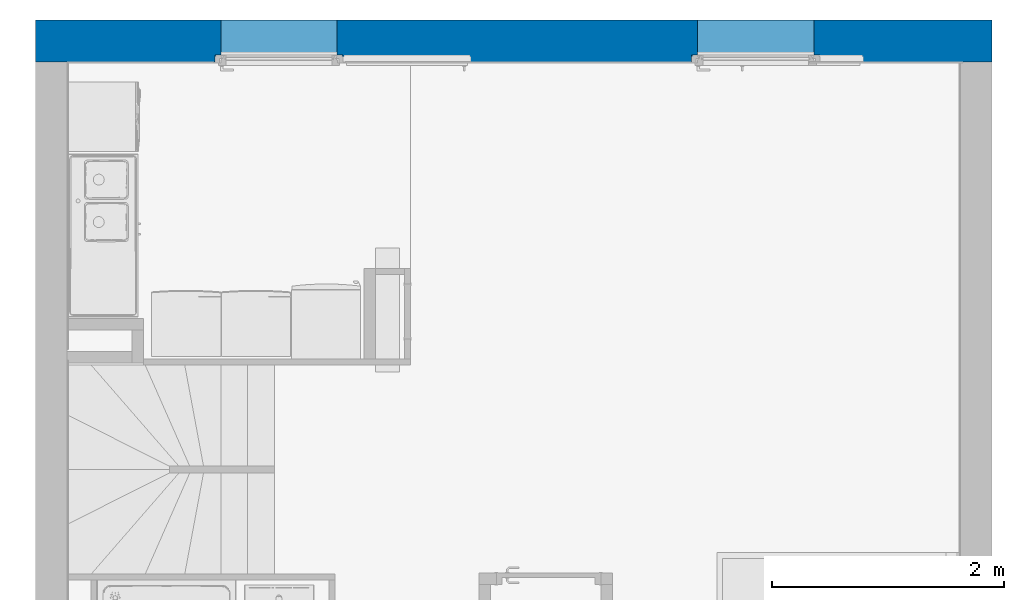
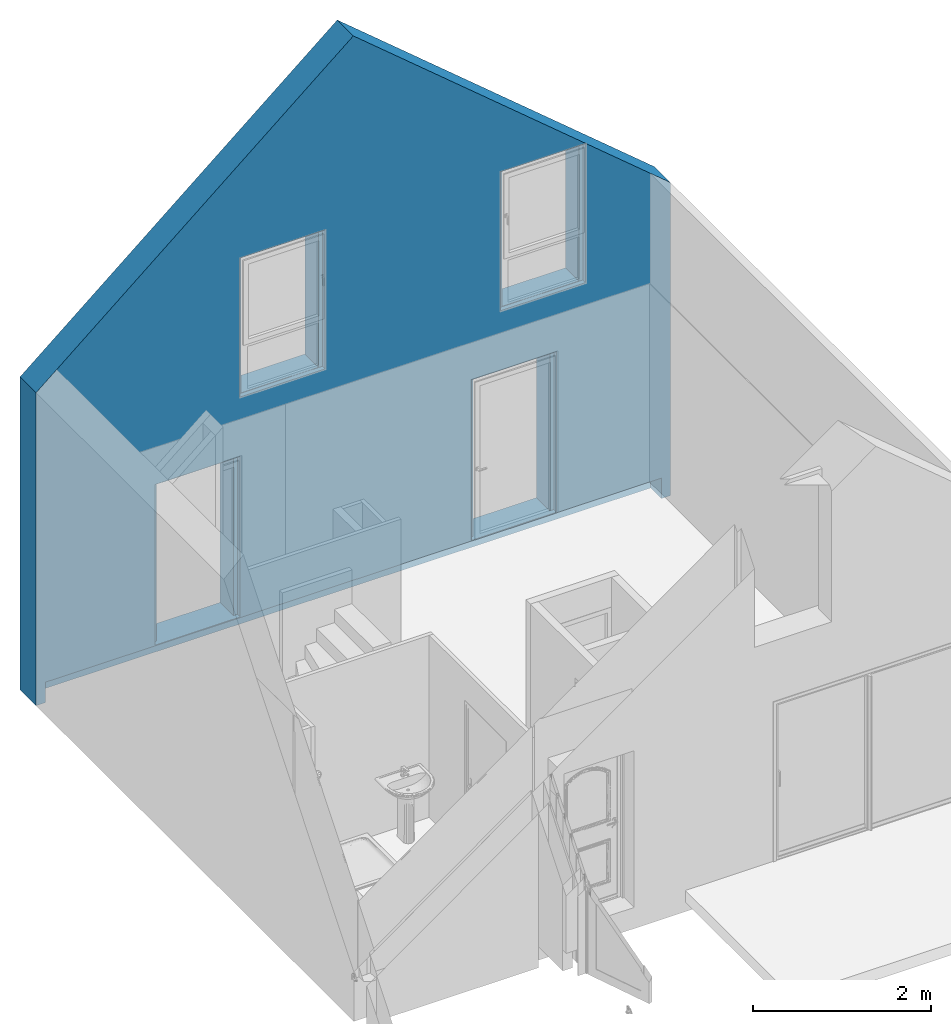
# One storey, part 69 of 81: 1 wall, 6 openings.
"""IFC2X3 building model written with IfcOpenShell, lengths in metres."""

import ifcopenshell
import ifcopenshell.guid

model = None  # the IFC model being written
_history = None  # IfcOwnerHistory: only IFC2X3 demands one
_inside = {}  # id of a spatial element -> (the spatial element, [elements in it])
_under = {}  # id of a project, library or spatial element -> (it, [spatial elements below it])
_declared = {}  # id of a project -> (the project, [libraries it declares])
_typed = {}  # id of a type object -> (the type object, [elements of that type])
_made_of = {}  # id of a material, layer set ... -> (it, [elements and type objects made of it])


def new_model(schema):
    """Start an empty IFC model of exactly this schema.

    Asked for "IFC4X3", IfcOpenShell would pick the latest addendum, in which some entities
    have other attributes; the version numbers below select the first issue.
    IFC2X3 requires an IfcOwnerHistory on every rooted entity: one is made here for all.
    """
    global model, _history
    if schema == "IFC4X3":
        model = ifcopenshell.file(schema_version=(4, 3, 0, 0))
    else:
        model = ifcopenshell.file(schema=schema)
    _inside.clear()
    _under.clear()
    _declared.clear()
    _typed.clear()
    _made_of.clear()
    _history = None
    if model.schema == "IFC2X3":
        org = make("IfcOrganization", Name="unknown")
        user = make(
            "IfcPersonAndOrganization",
            ThePerson=make("IfcPerson", FamilyName="unknown"),
            TheOrganization=org,
        )
        app = make(
            "IfcApplication",
            ApplicationDeveloper=org,
            Version="unknown",
            ApplicationFullName="unknown",
            ApplicationIdentifier="unknown",
        )
        _history = make(
            "IfcOwnerHistory",
            OwningUser=user,
            OwningApplication=app,
            ChangeAction="ADDED",
            CreationDate=0,
        )
    return model


def make(cls, **values):
    """One entity of the class cls with the attributes given. An attribute that is None is left unset."""
    return model.create_entity(
        cls, **{name: value for name, value in values.items() if value is not None}
    )


def entity(cls, *values):
    """Any entity or typed value of the class cls, its attributes in the order of the schema. None: left unset."""
    e = model.create_entity(cls)
    for i, value in enumerate(values):
        if value is not None:
            e[i] = value
    return e


def rooted(cls, **values):
    """An entity with a GlobalId (a new one), such as an element, a storey or a relation."""
    return make(cls, GlobalId=ifcopenshell.guid.new(), OwnerHistory=_history, **values)


def si_unit(unit_type, name, prefix=None):
    """IfcSIUnit, for example si_unit("LENGTHUNIT", "METRE", prefix="MILLI")."""
    return make("IfcSIUnit", UnitType=unit_type, Prefix=prefix, Name=name)


def converted_unit(unit_type, name, factor, base, dimensions=None, offset=None):
    """IfcConversionBasedUnit, such as the inch: factor (a typed value) times the base unit."""
    return make(
        "IfcConversionBasedUnit"
        if offset is None
        else "IfcConversionBasedUnitWithOffset",
        ConversionOffset=offset,
        Dimensions=None
        if dimensions is None
        else entity("IfcDimensionalExponents", *dimensions),
        UnitType=unit_type,
        Name=name,
        ConversionFactor=make(
            "IfcMeasureWithUnit", ValueComponent=factor, UnitComponent=base
        ),
    )


def derived_unit(unit_type, elements):
    """IfcDerivedUnit: a product of units, each with its exponent."""
    return make(
        "IfcDerivedUnit",
        Elements=[
            make("IfcDerivedUnitElement", Unit=unit, Exponent=power)
            for unit, power in elements
        ],
        UnitType=unit_type,
    )


def assignment(units):
    """IfcUnitAssignment: the units of a project."""
    return None if units is None else make("IfcUnitAssignment", Units=units)


def point(xyz):
    """IfcCartesianPoint."""
    return None if xyz is None else make("IfcCartesianPoint", Coordinates=xyz)


def direction(xyz):
    """IfcDirection."""
    return None if xyz is None else make("IfcDirection", DirectionRatios=xyz)


def frame(location, z_axis=None, x_axis=None):
    """IfcAxis2Placement3D, a coordinate frame: its origin and axes. An axis left out is left unset."""
    return make(
        "IfcAxis2Placement3D",
        Location=point(location),
        Axis=direction(z_axis),
        RefDirection=direction(x_axis),
    )


def frame_2d(location, x_axis=None):
    """IfcAxis2Placement2D, a coordinate frame in the plane: its origin and x axis."""
    return make(
        "IfcAxis2Placement2D", Location=point(location), RefDirection=direction(x_axis)
    )


def origin():
    """The frame at (0, 0, 0) with its axes left unset."""
    return frame((0.0, 0.0, 0.0))


def origin_2d_with_axis():
    """The frame at (0, 0) in the plane with the x axis (1, 0) written out."""
    return frame_2d((0.0, 0.0), x_axis=(1.0, 0.0))


def place(relative_to, where):
    """IfcLocalPlacement: puts the frame where relative to a parent placement (None: the world)."""
    return make(
        "IfcLocalPlacement", PlacementRelTo=relative_to, RelativePlacement=where
    )


def context(
    kind, dimensions, precision=None, world=None, true_north=None, identifier=None
):
    """IfcGeometricRepresentationContext, for example the 3D "Model" context."""
    return make(
        "IfcGeometricRepresentationContext",
        ContextIdentifier=identifier,
        ContextType=kind,
        CoordinateSpaceDimension=dimensions,
        Precision=precision,
        WorldCoordinateSystem=world,
        TrueNorth=true_north,
    )


def subcontext(parent, identifier, kind, view, scale=None):
    """IfcGeometricRepresentationSubContext, for example "Body" below "Model"."""
    return make(
        "IfcGeometricRepresentationSubContext",
        ContextIdentifier=identifier,
        ContextType=kind,
        ParentContext=parent,
        TargetScale=scale,
        TargetView=view,
    )


def project(units=None, contexts=None):
    """IfcProject with its units and contexts."""
    return rooted(
        "IfcProject",
        Name="project",
        RepresentationContexts=contexts,
        UnitsInContext=assignment(units),
    )


def spatial(cls, under=None, at=None, **own):
    """A site, building, storey or space (cls), placed at a placement, below another one or the project."""
    s = rooted(cls, ObjectPlacement=at, **own)
    if under is not None:
        _under.setdefault(under.id(), (under, []))[1].append(s)
    return s


def polyline(points):
    """IfcPolyline through the points."""
    return make("IfcPolyline", Points=[point(p) for p in points])


def profile(cls, at=None, kind="AREA", **sizes):
    """A parametric profile (cls). Its sizes go by their IFC names, for example OverallWidth=200.0."""
    return make(cls, ProfileType=kind, Position=at, **sizes)


def rectangle(**sizes):
    """IfcRectangleProfileDef."""
    return profile("IfcRectangleProfileDef", **sizes)


def extrude(swept, where, along, depth):
    """IfcExtrudedAreaSolid: the profile swept, set in the frame where, extruded along a direction by depth."""
    return make(
        "IfcExtrudedAreaSolid",
        SweptArea=swept,
        Position=where,
        ExtrudedDirection=direction(along),
        Depth=depth,
    )


def clip(a, b, op="DIFFERENCE"):
    """IfcBooleanClippingResult: the solid a cut by the half space b."""
    return make(
        "IfcBooleanClippingResult", Operator=op, FirstOperand=a, SecondOperand=b
    )


def bounded_halfspace(plane, agree, where, boundary):
    """IfcPolygonalBoundedHalfSpace: a half space limited to a polygon's prism."""
    return make(
        "IfcPolygonalBoundedHalfSpace",
        BaseSurface=make("IfcPlane", Position=plane),
        AgreementFlag=agree,
        Position=where,
        PolygonalBoundary=boundary,
    )


def faces_of(points, faces, orient=None, outer=None):
    """IfcFace entities. A face is a list of loops; a loop is a list of indices into points, from 0.

    orient and outer hold one flag for each loop. By default every Orientation is true, the
    first loop of a face is its IfcFaceOuterBound and the others are IfcFaceBound.
    """
    made = []
    for i, loops in enumerate(faces):
        bounds = []
        for j, loop in enumerate(loops):
            is_outer = j == 0 if outer is None else outer[i][j]
            bounds.append(
                make(
                    "IfcFaceOuterBound" if is_outer else "IfcFaceBound",
                    Bound=make("IfcPolyLoop", Polygon=[points[k] for k in loop]),
                    Orientation=True if orient is None else orient[i][j],
                )
            )
        made.append(make("IfcFace", Bounds=bounds))
    return made


def faceted_brep(points, faces, orient=None, outer=None, voids=None):
    """IfcFacetedBrep: a solid bounded by flat faces; with voids (closed shells), ...WithVoids."""
    shared = [point(p) for p in points]
    hull = make("IfcClosedShell", CfsFaces=faces_of(shared, faces, orient, outer))
    if voids is None:
        return make("IfcFacetedBrep", Outer=hull)
    return make(
        "IfcFacetedBrepWithVoids",
        Outer=hull,
        Voids=[
            make(cls, CfsFaces=faces_of(shared, fs, o, b)) for cls, fs, o, b in voids
        ],
    )


def shape(context_of_items, identifier, shape_type, items):
    """IfcShapeRepresentation: the items that make up one representation, for example the "Body"."""
    return make(
        "IfcShapeRepresentation",
        ContextOfItems=context_of_items,
        RepresentationIdentifier=identifier,
        RepresentationType=shape_type,
        Items=items,
    )


def material(Name=None, Category=None):
    """IfcMaterial."""
    return make("IfcMaterial", Name=Name, Category=Category)


def layer(
    of_material, thickness, ventilated=None, Name=None, Category=None, Priority=None
):
    """IfcMaterialLayer: one layer of a wall or slab, of a material (None: an air gap)."""
    return make(
        "IfcMaterialLayer",
        Material=of_material,
        LayerThickness=thickness,
        IsVentilated=ventilated,
        Name=Name,
        Category=Category,
        Priority=Priority,
    )


def layer_set(layers, Name=None):
    """IfcMaterialLayerSet."""
    return make("IfcMaterialLayerSet", MaterialLayers=layers, LayerSetName=Name)


def layer_usage(for_layer_set, set_direction, sense, offset, extent=None):
    """IfcMaterialLayerSetUsage: how a layer set lies in its element."""
    return make(
        "IfcMaterialLayerSetUsage",
        ForLayerSet=for_layer_set,
        LayerSetDirection=set_direction,
        DirectionSense=sense,
        OffsetFromReferenceLine=offset,
        ReferenceExtent=extent,
    )


def made_of(thing, what):
    """Note that an element or type object is made of a material, layer set ...; save() writes the relation."""
    if what is not None:
        _made_of.setdefault(what.id(), (what, []))[1].append(thing)
    return thing


def type_object(cls, material=None, **own):
    """A type object (cls), such as IfcWallType, which elements share."""
    return made_of(rooted(cls, **own), material)


def element(
    cls,
    number,
    at=None,
    inside=None,
    cuts=None,
    type_object=None,
    material=None,
    context=None,
    identifier="Body",
    shape_type=None,
    held_by="IfcProductDefinitionShape",
    body=None,
    shapes=None,
    **own,
):
    """One element of the class cls, such as IfcWall. Its Tag is "e" and its number.

    at: its placement. inside: the storey or other place that contains it. cuts: it is an
    opening in that element (IfcRelVoidsElement). A single representation is given by context,
    identifier, shape_type and body (its items); several are given by shapes. held_by: the class
    of the entity that holds the representations. save() writes the other relations.
    """
    e = rooted(cls, Tag="e%d" % number, ObjectPlacement=at, **own)
    if body is not None:
        shapes = [shape(context, identifier, shape_type, body)]
    if shapes is not None:
        e.Representation = make(held_by, Representations=shapes)
    if inside is not None:
        _inside.setdefault(inside.id(), (inside, []))[1].append(e)
    if cuts is not None:
        rooted(
            "IfcRelVoidsElement", RelatingBuildingElement=cuts, RelatedOpeningElement=e
        )
    if type_object is not None:
        _typed.setdefault(type_object.id(), (type_object, []))[1].append(e)
    return made_of(e, material)


def aggregate(whole, parts):
    """IfcRelAggregates: a whole, such as a stair, and the parts it consists of."""
    return rooted("IfcRelAggregates", RelatingObject=whole, RelatedObjects=parts)


def save(model, path):
    """Write the relations noted so far, then the file.

    IfcRelAggregates (storeys below a building ...), IfcRelContainedInSpatialStructure (elements
    in a storey), IfcRelDefinesByType, IfcRelAssociatesMaterial and IfcRelDeclares: one each for
    every whole, place, type object, material and project.
    """
    for whole, parts in _under.values():
        aggregate(whole, parts)
    for where, things in _inside.values():
        rooted(
            "IfcRelContainedInSpatialStructure",
            RelatedElements=things,
            RelatingStructure=where,
        )
    for kind, things in _typed.values():
        rooted("IfcRelDefinesByType", RelatedObjects=things, RelatingType=kind)
    for what, things in _made_of.values():
        rooted("IfcRelAssociatesMaterial", RelatedObjects=things, RelatingMaterial=what)
    for by, libraries in _declared.values():
        rooted("IfcRelDeclares", RelatingContext=by, RelatedDefinitions=libraries)
    model.write(path)


model = new_model("IFC2X3")

# Units and contexts
model_context = context("Model", 3, precision=1e-05, world=origin(), true_north=direction((6.12303176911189e-17, 1.0)))
body_context = subcontext(model_context, "Body", "Model", "MODEL_VIEW")
ifc_project = project(units=[si_unit("LENGTHUNIT", "METRE"), si_unit("AREAUNIT", "SQUARE_METRE"), si_unit("VOLUMEUNIT", "CUBIC_METRE"), converted_unit("PLANEANGLEUNIT", "DEGREE", entity("IfcRatioMeasure", 0.0174532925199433), si_unit("PLANEANGLEUNIT", "RADIAN"), dimensions=[0, 0, 0, 0, 0, 0, 0]), si_unit("MASSUNIT", "GRAM", prefix="KILO"), derived_unit("MASSDENSITYUNIT", [(si_unit("MASSUNIT", "GRAM", prefix="KILO"), 1), (si_unit("LENGTHUNIT", "METRE"), -3)]), derived_unit("MOMENTOFINERTIAUNIT", [(si_unit("LENGTHUNIT", "METRE"), 4)]), si_unit("TIMEUNIT", "SECOND"), si_unit("FREQUENCYUNIT", "HERTZ"), si_unit("THERMODYNAMICTEMPERATUREUNIT", "DEGREE_CELSIUS"), derived_unit("THERMALTRANSMITTANCEUNIT", [(si_unit("MASSUNIT", "GRAM", prefix="KILO"), 1), (si_unit("THERMODYNAMICTEMPERATUREUNIT", "KELVIN"), -1), (si_unit("TIMEUNIT", "SECOND"), -3)]), derived_unit("VOLUMETRICFLOWRATEUNIT", [(si_unit("LENGTHUNIT", "METRE"), 3), (si_unit("TIMEUNIT", "SECOND"), -1)]), si_unit("ELECTRICCURRENTUNIT", "AMPERE"), si_unit("ELECTRICVOLTAGEUNIT", "VOLT"), si_unit("POWERUNIT", "WATT"), si_unit("FORCEUNIT", "NEWTON", prefix="KILO"), si_unit("ILLUMINANCEUNIT", "LUX"), si_unit("LUMINOUSFLUXUNIT", "LUMEN"), si_unit("LUMINOUSINTENSITYUNIT", "CANDELA"), derived_unit("USERDEFINED", [(si_unit("MASSUNIT", "GRAM", prefix="KILO"), -1), (si_unit("LENGTHUNIT", "METRE"), -2), (si_unit("TIMEUNIT", "SECOND"), 3), (si_unit("LUMINOUSFLUXUNIT", "LUMEN"), 1)]), derived_unit("LINEARVELOCITYUNIT", [(si_unit("LENGTHUNIT", "METRE"), 1), (si_unit("TIMEUNIT", "SECOND"), -1)]), si_unit("PRESSUREUNIT", "PASCAL"), derived_unit("USERDEFINED", [(si_unit("LENGTHUNIT", "METRE"), -2), (si_unit("MASSUNIT", "GRAM", prefix="KILO"), 1), (si_unit("TIMEUNIT", "SECOND"), -2)]), derived_unit("LINEARFORCEUNIT", [(si_unit("MASSUNIT", "GRAM", prefix="KILO"), 1), (si_unit("LENGTHUNIT", "METRE"), 1), (si_unit("TIMEUNIT", "SECOND"), -2), (si_unit("LENGTHUNIT", "METRE"), -1)]), derived_unit("PLANARFORCEUNIT", [(si_unit("MASSUNIT", "GRAM", prefix="KILO"), 1), (si_unit("LENGTHUNIT", "METRE"), 1), (si_unit("TIMEUNIT", "SECOND"), -2), (si_unit("LENGTHUNIT", "METRE"), -2)])], contexts=[model_context])

# Site, building, storey
site_placement = place(None, origin())
site = spatial("IfcSite", under=ifc_project, at=site_placement, Name="Surface", CompositionType="ELEMENT")
building_placement = place(site_placement, origin())
building = spatial("IfcBuilding", under=site, at=building_placement, CompositionType="ELEMENT")
storey_placement = place(building_placement, origin())
storey = spatial("IfcBuildingStorey", under=building, at=storey_placement, Name="01 RDC", CompositionType="ELEMENT", Elevation=-1.94916083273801e-14)

# Wall, openings
ifc_material_1 = material(Name="Maçonnerie - Enduit")
ifc_layer_1 = layer(ifc_material_1, 0.02)
ifc_material_2 = material(Name="Blocs béton manufacturés")
ifc_layer_2 = layer(ifc_material_2, 0.2)
ifc_material_3 = material(Name="Maçonnerie - Isolant")
ifc_layer_3 = layer(ifc_material_3, 0.14)
ifc_layer_set = layer_set([ifc_layer_1, ifc_layer_2, ifc_layer_3], Name="Mur de base:Ext. Enduit 2 + Parpaing 20 + Isolant 14")
ifc_layer_usage = layer_usage(ifc_layer_set, "AXIS2", "NEGATIVE", 0.18)
wall_type = type_object("IfcWallType", Name="Mur de base:Ext. Enduit 2 + Parpaing 20 + Isolant 14", PredefinedType="STANDARD", material=ifc_layer_set)
wall_placement = place(storey_placement, frame((5.4665615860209, 3.62303904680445, -0.29)))
wall = element("IfcWallStandardCase", 1, at=wall_placement, inside=storey, type_object=wall_type, material=ifc_layer_usage, Name="Mur de base:Ext. Enduit 2 + Parpaing 20 + Isolant 14", ObjectType="Mur de base:Ext. Enduit 2 + Parpaing 20 + Isolant 14", context=body_context, shape_type="Clipping", body=[
    clip(clip(extrude(rectangle(XDim=8.23, YDim=0.36, at=frame_2d((4.115, 1.11022302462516e-16), x_axis=(-1.0, 0.0))), origin(), (0.0, 0.0, 1.0), 7.74289498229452), bounded_halfspace(frame((0.0, 0.18, 4.29000000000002), z_axis=(-0.642787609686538, 0.0, 0.766044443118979), x_axis=(0.0, -1.0, 0.0)), False, frame((0.0, 0.18, 4.29000000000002)), polyline([(0.0, 0.0), (0.0, -0.36), (0.270000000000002, -0.359999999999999), (4.115, -0.36), (4.115, 0.0), (0.0, 0.0)]))), bounded_halfspace(frame((8.23, -0.179999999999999, 4.29000000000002), z_axis=(0.642787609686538, 0.0, 0.766044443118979), x_axis=(0.0, 1.0, 0.0)), False, frame((8.23, -0.179999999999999, 4.29000000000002)), polyline([(0.0, 0.0), (0.0, 0.36), (-4.115, 0.359999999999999), (-4.115, 0.0), (-0.27, 0.0), (0.0, 0.0)]))),
])
opening_1_placement = place(storey_placement, frame((5.4665615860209, 3.62303904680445, -0.29)))
element("IfcOpeningElement", 2, at=opening_1_placement, cuts=wall, Name="Mur de base:Ext. Enduit 2 + Parpaing 20 + Isolant 14:1", ObjectType="Opening", context=body_context, shape_type="SweptSolid", body=[
    extrude(rectangle(XDim=0.28, YDim=0.240000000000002, at=frame_2d((4.16333634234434e-17, 0.0), x_axis=(1.0, 0.0))), frame((0.120000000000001, -0.0599999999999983, 0.14), z_axis=(1.0, 0.0, 0.0), x_axis=(0.0, 0.0, 1.0)), (0.0, 0.0, 1.0), 7.99000000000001),
])
opening_2_placement = place(wall_placement, origin())
element("IfcOpeningElement", 3, at=opening_2_placement, cuts=wall, Name="Mur de base:Ext. Enduit 2 + Parpaing 20 + Isolant 14", ObjectType="Opening", context=body_context, shape_type="SweptSolid", body=[
    extrude(rectangle(XDim=0.081221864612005, YDim=0.0893985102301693, at=origin_2d_with_axis()), frame((2.48446993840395, -0.18, 0.335910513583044), z_axis=(0.0, 1.0, 0.0), x_axis=(0.0, 0.0, -1.0)), (0.0, 0.0, 1.0), 0.36),
])
opening_3_placement = place(wall_placement, frame((1.53200000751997, -0.430000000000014, 0.29)))
element("IfcOpeningElement", 4, at=opening_3_placement, cuts=wall, Name="Mur de base:Ext. Enduit 2 + Parpaing 20 + Isolant 14", ObjectType="Opening", context=body_context, shape_type="Brep", body=[
    faceted_brep([(0.0634999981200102, 1.21000000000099, 2.14999999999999), (0.063499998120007, 0.310000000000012, 2.14999999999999), (1.06349999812, 0.310000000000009, 2.14999999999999), (1.06349999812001, 1.21000000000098, 2.14999999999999), (0.0634999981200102, 1.21000000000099, 0.0), (1.06349999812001, 1.21000000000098, 0.0), (1.06349999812, 0.310000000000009, 0.0), (1.11499999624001, 0.310000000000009, 0.0), (1.11499999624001, 0.240000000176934, 0.0), (0.0119999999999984, 0.240000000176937, 0.0), (0.0119999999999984, 0.310000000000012, 0.0), (0.063499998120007, 0.310000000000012, 0.0), (0.0119999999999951, 0.310000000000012, 2.20149999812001), (1.11499999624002, 0.310000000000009, 2.20149999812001), (0.0119999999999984, 0.240000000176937, 2.14999999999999), (0.0119999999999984, 0.250000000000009, 2.14999999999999), (0.0119999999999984, 0.250000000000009, 2.20149999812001), (1.11499999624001, 0.240000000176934, 2.14999999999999), (1.11499999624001, 0.250000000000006, 2.20149999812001), (1.11499999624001, 0.250000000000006, 2.14999999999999)], [[[0, 1, 2, 3]], [[4, 5, 6, 7, 8, 9, 10, 11]], [[0, 4, 11, 1]], [[10, 12, 13, 7, 6, 2, 1, 11]], [[9, 14, 15, 16, 12, 10]], [[14, 9, 8, 17]], [[13, 18, 19, 17, 8, 7]], [[2, 6, 5, 3]], [[3, 5, 4, 0]], [[16, 18, 13, 12]], [[15, 19, 18, 16]], [[17, 19, 15, 14]]]),
    faceted_brep([(0.0, 0.00100000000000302, 2.20249999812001), (0.0, 0.00100000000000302, 2.20149999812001), (0.0, 0.0, 2.20149999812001), (0.0, 0.0, 2.20249999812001), (1.12699999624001, 0.000999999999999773, 2.20249999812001), (1.12699999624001, 0.0, 2.20249999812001), (1.12699999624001, 0.0, 2.20149999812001), (1.12699999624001, 0.000999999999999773, 2.20149999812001)], [[[0, 1, 2, 3]], [[4, 5, 6, 7]], [[0, 4, 7, 1]], [[1, 7, 6, 2]], [[2, 6, 5, 3]], [[3, 5, 4, 0]]]),
])
opening_4_placement = place(wall_placement, frame((6.01150000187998, -0.430000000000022, 3.30600000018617)))
element("IfcOpeningElement", 5, at=opening_4_placement, cuts=wall, Name="Mur de base:Ext. Enduit 2 + Parpaing 20 + Isolant 14", ObjectType="Opening", context=body_context, shape_type="Brep", body=[
    faceted_brep([(0.0634999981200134, 1.21000000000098, 1.85399999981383), (0.0634999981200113, 0.310000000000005, 1.85399999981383), (1.06349999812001, 0.310000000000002, 1.85399999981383), (1.06349999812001, 1.21000000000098, 1.85399999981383), (0.0120000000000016, 0.24000000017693, 0.00399999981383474), (0.0120000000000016, 0.250000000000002, 0.00399999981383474), (1.11499999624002, 0.249999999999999, 0.00399999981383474), (1.11499999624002, 0.240000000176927, 0.00399999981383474), (0.0634999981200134, 1.21000000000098, 0.00399999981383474), (0.0634999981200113, 0.310000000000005, 0.00399999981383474), (0.0634999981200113, 0.310000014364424, 0.00399999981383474), (1.06349999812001, 0.310000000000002, 0.00399999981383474), (1.11499999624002, 0.310000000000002, 1.90549999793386), (1.11499999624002, 0.31000001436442, 0.0), (0.0120000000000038, 0.310000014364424, 0.0), (0.0120000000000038, 0.310000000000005, 1.90549999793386), (0.0120000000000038, 0.250000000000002, 0.0), (0.0120000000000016, 0.24000000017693, 1.85399999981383), (0.0120000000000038, 0.250000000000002, 1.85399999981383), (0.0120000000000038, 0.250000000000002, 1.90549999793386), (1.11499999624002, 0.240000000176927, 1.85399999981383), (1.11499999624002, 0.249999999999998, 0.0), (1.11499999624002, 0.249999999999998, 1.90549999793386), (1.11499999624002, 0.249999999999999, 1.85399999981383), (1.06349999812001, 1.21000000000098, 0.00399999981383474), (1.06349999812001, 0.31000001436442, 0.00399999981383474)], [[[0, 1, 2, 3]], [[4, 5, 6, 7]], [[0, 8, 9, 1]], [[10, 11, 2, 1], [12, 13, 14, 15]], [[14, 16, 5, 4, 17, 18, 19, 15]], [[17, 4, 7, 20]], [[7, 6, 21, 13, 12, 22, 23, 20]], [[2, 11, 24, 3]], [[3, 24, 8, 0]], [[14, 13, 21, 16]], [[16, 21, 6, 5]], [[19, 22, 12, 15]], [[18, 23, 22, 19]], [[8, 24, 25, 9]], [[20, 23, 18, 17]]], outer=[[True], [True], [True], [False, True], [True], [True], [True], [True], [True], [True], [True], [True], [True], [True], [True]]),
    faceted_brep([(0.0, 0.000999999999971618, 1.90649999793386), (0.0, 0.000999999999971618, 1.90549999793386), (0.0, 0.0, 1.90549999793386), (0.0, 0.0, 1.90649999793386), (1.12699999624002, 0.00099999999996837, 1.90649999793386), (1.12699999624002, 0.0, 1.90649999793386), (1.12699999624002, 0.0, 1.90549999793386), (1.12699999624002, 0.00099999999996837, 1.90549999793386)], [[[0, 1, 2, 3]], [[4, 5, 6, 7]], [[0, 4, 7, 1]], [[1, 7, 6, 2]], [[2, 6, 5, 3]], [[3, 5, 4, 0]]]),
])
opening_5_placement = place(wall_placement, frame((2.63200000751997, -0.43000000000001, 3.30600000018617)))
element("IfcOpeningElement", 6, at=opening_5_placement, cuts=wall, Name="Mur de base:Ext. Enduit 2 + Parpaing 20 + Isolant 14", ObjectType="Opening", context=body_context, shape_type="Brep", body=[
    faceted_brep([(1.06349999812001, 1.21000000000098, 1.85399999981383), (0.0634999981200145, 1.21000000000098, 1.85399999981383), (0.0634999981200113, 0.310000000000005, 1.85399999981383), (1.06349999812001, 0.310000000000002, 1.85399999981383), (1.11499999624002, 0.240000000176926, 0.00399999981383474), (0.0120000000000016, 0.240000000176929, 0.00399999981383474), (0.0120000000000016, 0.250000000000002, 0.00399999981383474), (1.11499999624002, 0.249999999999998, 0.00399999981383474), (1.06349999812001, 0.310000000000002, 0.00399999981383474), (1.06349999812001, 1.21000000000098, 0.00399999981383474), (0.0634999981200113, 0.310000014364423, 0.00399999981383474), (0.0120000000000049, 0.310000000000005, 1.90549999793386), (1.11499999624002, 0.310000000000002, 1.90549999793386), (1.11499999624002, 0.31000001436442, 0.0), (0.0120000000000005, 0.310000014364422, 0.0), (1.11499999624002, 0.249999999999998, 1.90549999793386), (1.11499999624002, 0.249999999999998, 1.85399999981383), (1.11499999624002, 0.240000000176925, 1.85399999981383), (1.11499999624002, 0.249999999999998, 0.0), (0.0120000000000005, 0.240000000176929, 1.85399999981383), (0.0120000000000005, 0.250000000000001, 1.85399999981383), (0.0120000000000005, 0.250000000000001, 1.90549999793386), (0.0120000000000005, 0.250000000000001, 0.0), (0.0634999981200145, 1.21000000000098, 0.00399999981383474), (0.0634999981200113, 0.310000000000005, 0.00399999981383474), (1.06349999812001, 0.31000001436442, 0.00399999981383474)], [[[0, 1, 2, 3]], [[4, 5, 6, 7]], [[0, 3, 8, 9]], [[8, 3, 2, 10], [11, 12, 13, 14]], [[13, 12, 15, 16, 17, 4, 7, 18]], [[17, 19, 5, 4]], [[5, 19, 20, 21, 11, 14, 22, 6]], [[2, 1, 23, 24]], [[1, 0, 9, 23]], [[13, 18, 22, 14]], [[18, 7, 6, 22]], [[15, 12, 11, 21]], [[16, 15, 21, 20]], [[9, 25, 24, 23]], [[19, 17, 16, 20]]], outer=[[True], [True], [True], [False, True], [True], [True], [True], [True], [True], [True], [True], [True], [True], [True], [True]]),
    faceted_brep([(1.12699999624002, 0.000999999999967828, 1.90649999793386), (1.12699999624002, 0.0, 1.90649999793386), (1.12699999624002, 0.0, 1.90549999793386), (1.12699999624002, 0.000999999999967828, 1.90549999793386), (0.0, 0.000999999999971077, 1.90649999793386), (0.0, 0.000999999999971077, 1.90549999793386), (0.0, 0.0, 1.90549999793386), (0.0, 0.0, 1.90649999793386)], [[[0, 1, 2, 3]], [[4, 5, 6, 7]], [[0, 3, 5, 4]], [[3, 2, 6, 5]], [[2, 1, 7, 6]], [[1, 0, 4, 7]]]),
])
opening_6_placement = place(wall_placement, frame((5.63500000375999, -0.430000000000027, 0.29)))
element("IfcOpeningElement", 7, at=opening_6_placement, cuts=wall, Name="Mur de base:Ext. Enduit 2 + Parpaing 20 + Isolant 14", ObjectType="Opening", context=body_context, shape_type="Brep", body=[
    faceted_brep([(0.0634999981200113, 1.21000000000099, 2.14999999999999), (0.0634999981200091, 0.310000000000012, 2.14999999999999), (1.06349999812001, 0.310000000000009, 2.14999999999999), (1.06349999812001, 1.21000000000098, 2.14999999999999), (0.0634999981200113, 1.21000000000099, 0.0), (1.06349999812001, 1.21000000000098, 0.0), (1.06349999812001, 0.310000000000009, 0.0), (1.11499999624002, 0.310000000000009, 0.0), (1.11499999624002, 0.240000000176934, 0.0), (0.0119999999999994, 0.240000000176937, 0.0), (0.0119999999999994, 0.310000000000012, 0.0), (0.0634999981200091, 0.310000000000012, 0.0), (0.0119999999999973, 0.310000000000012, 2.20149999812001), (1.11499999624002, 0.310000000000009, 2.20149999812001), (0.0119999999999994, 0.240000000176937, 2.14999999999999), (0.0120000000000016, 0.250000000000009, 2.14999999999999), (0.0120000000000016, 0.250000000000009, 2.20149999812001), (1.11499999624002, 0.240000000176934, 2.14999999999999), (1.11499999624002, 0.250000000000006, 2.20149999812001), (1.11499999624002, 0.250000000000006, 2.14999999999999)], [[[0, 1, 2, 3]], [[4, 5, 6, 7, 8, 9, 10, 11]], [[0, 4, 11, 1]], [[10, 12, 13, 7, 6, 2, 1, 11]], [[9, 14, 15, 16, 12, 10]], [[14, 9, 8, 17]], [[13, 18, 19, 17, 8, 7]], [[2, 6, 5, 3]], [[3, 5, 4, 0]], [[16, 18, 13, 12]], [[15, 19, 18, 16]], [[17, 19, 15, 14]]]),
    faceted_brep([(0.0, 0.00100000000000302, 2.20249999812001), (0.0, 0.00100000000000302, 2.20149999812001), (0.0, 0.0, 2.20149999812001), (0.0, 0.0, 2.20249999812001), (1.12699999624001, 0.000999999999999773, 2.20249999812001), (1.12699999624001, 0.0, 2.20249999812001), (1.12699999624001, 0.0, 2.20149999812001), (1.12699999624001, 0.000999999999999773, 2.20149999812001)], [[[0, 1, 2, 3]], [[4, 5, 6, 7]], [[0, 4, 7, 1]], [[1, 7, 6, 2]], [[2, 6, 5, 3]], [[3, 5, 4, 0]]]),
])

save(model, "model.ifc")
